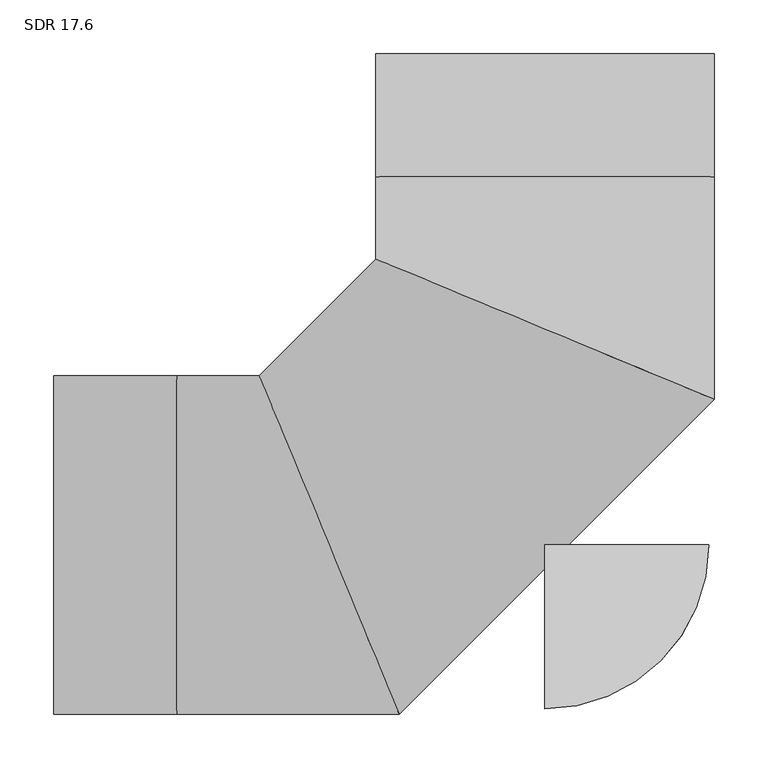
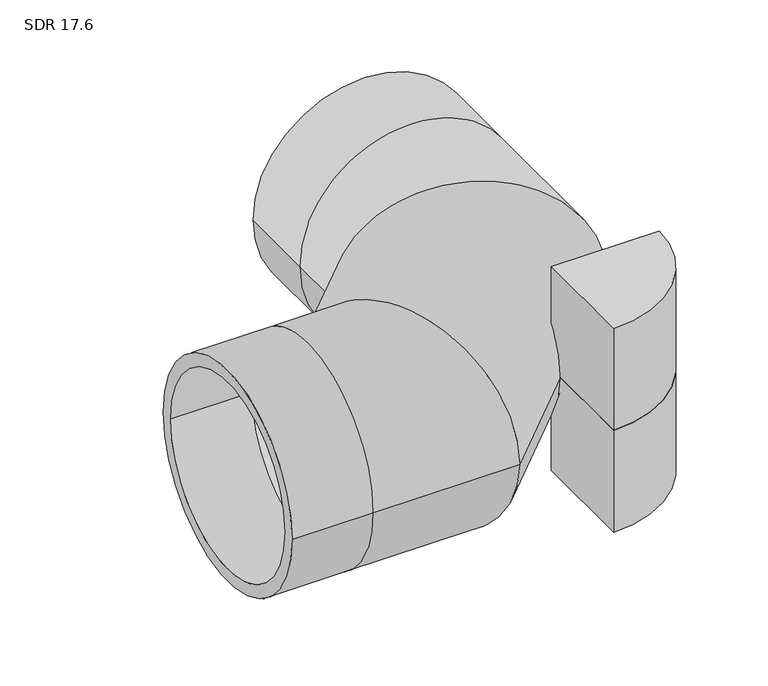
"""IFC4 building model written with IfcOpenShell, lengths in millimetres: pipe fitting geometry, Aquatherm - Elbow Blue BW Segmented : SDR 17.6."""

from ifc_helpers import new_model, si_unit, point, frame, origin, origin_with_axes, origin_2d, place, context, project, spatial, polyline, circle_curve, ellipse_curve, trimmed, segment, composite_curve, outline, extrude, source, transform, mapped, element, save
from ifc_brep_helpers import plane_surface, cylinder_surface, revolved_surface, advanced_brep


def sdr_17_6_15fbc498(model_context):
    return source(origin(), model_context, "Body", "SolidModel", [
        extrude(outline(composite_curve([segment(polyline([(0.0, -152.4), (0.0, 0.0), (152.4, 0.0)]), True, "CONTINUOUS"), segment(trimmed(circle_curve(origin_2d(), 152.4), [point((152.4, 0.0))], [point((0.0, -152.4))], False, "CARTESIAN"), True, "CONTINUOUS")], self_intersect=False)), frame((0.0, 0.0, -152.4), z_axis=(0.0, 0.0, 1.0), x_axis=(1.0, 0.0, 0.0)), (0.0, 0.0, 1.0), 152.4),
        extrude(outline(composite_curve([segment(trimmed(circle_curve(origin_2d(), 152.4), [point((152.4, 0.0))], [point((0.0, -152.4))], False, "CARTESIAN"), True, "CONTINUOUS"), segment(polyline([(0.0, -152.4), (0.0, 0.0), (152.4, 0.0)]), True, "CONTINUOUS")], self_intersect=False)), origin_with_axes(), (0.0, 0.0, 1.0), 152.4),
        advanced_brep(
        [(-457.2, -157.48, 0.0), (-457.2, 157.48, 0.0), (-457.2, -139.586134, 0.0), (-457.2, 139.586134, 0.0), (157.48, 457.2, 0.0), (-157.48, 457.2, 0.0), (139.586134, 457.2, 0.0), (-139.586134, 457.2, 0.0), (-342.9, -157.48, 0.0), (-342.9, 157.48, 0.0), (-342.9, -139.586134, 0.0), (-342.9, 139.586134, 0.0), (-135.6358177, -157.48, 0.0), (-266.0965213, 157.48, 0.0), (-143.0476996, -139.586134, 0.0), (-258.6846393, 139.586134, 0.0), (157.48, 135.6358177, 0.0), (-157.48, 266.0965213, 0.0), (139.586134, 143.0476996, 0.0), (-139.586134, 258.6846393, 0.0), (-157.48, 342.9, 0.0), (157.48, 342.9, 0.0), (-139.586134, 342.9, 0.0), (139.586134, 342.9, 0.0)],
        [
            (0, 1, circle_curve(frame((-457.2, 0.0, 0.0), z_axis=(-1.0, 0.0, 0.0), x_axis=(0.0, 1.0, 0.0)), 157.48)),
            (1, 0, circle_curve(frame((-457.2, 0.0, 0.0), z_axis=(-1.0, 0.0, 0.0), x_axis=(0.0, 1.0, 0.0)), 157.48)),
            (2, 3, circle_curve(frame((-457.2, 0.0, 0.0), z_axis=(1.0, 0.0, 0.0), x_axis=(0.0, 1.0, 0.0)), 139.586134)),
            (3, 2, circle_curve(frame((-457.2, 0.0, 0.0), z_axis=(1.0, 0.0, 0.0), x_axis=(0.0, 1.0, 0.0)), 139.586134)),
            (4, 5, circle_curve(frame((0.0, 457.2, 0.0), z_axis=(0.0, 1.0, 0.0), x_axis=(-1.0, 0.0, 0.0)), 157.48)),
            (5, 4, circle_curve(frame((0.0, 457.2, 0.0), z_axis=(0.0, 1.0, 0.0), x_axis=(-1.0, 0.0, 0.0)), 157.48)),
            (6, 7, circle_curve(frame((0.0, 457.2, 0.0), z_axis=(0.0, -1.0, 0.0), x_axis=(-1.0, 0.0, 0.0)), 139.586134)),
            (7, 6, circle_curve(frame((0.0, 457.2, 0.0), z_axis=(0.0, -1.0, 0.0), x_axis=(-1.0, 0.0, 0.0)), 139.586134)),
            (0, 8),
            (8, 9, circle_curve(frame((-342.9, 0.0, 0.0), z_axis=(-1.0, 0.0, 0.0), x_axis=(0.0, 1.0, 0.0)), 157.48)),
            (9, 1),
            (9, 8, circle_curve(frame((-342.9, 0.0, 0.0), z_axis=(-1.0, 0.0, 0.0), x_axis=(0.0, 1.0, 0.0)), 157.48)),
            (2, 10),
            (10, 11, circle_curve(frame((-342.9, 0.0, 0.0), z_axis=(1.0, 0.0, 0.0), x_axis=(0.0, 1.0, 0.0)), 139.586134)),
            (11, 3),
            (11, 10, circle_curve(frame((-342.9, 0.0, 0.0), z_axis=(1.0, 0.0, 0.0), x_axis=(0.0, 1.0, 0.0)), 139.586134)),
            (8, 12),
            (12, 13, ellipse_curve(frame((-200.8661695, 0.0, 0.0), z_axis=(-0.9238795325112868, -0.38268343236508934, 0.0), x_axis=(-0.3826834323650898, 0.9238795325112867, 0.0)), 170.4551237, 157.48)),
            (13, 9),
            (13, 12, ellipse_curve(frame((-200.8661695, 0.0, 0.0), z_axis=(-0.9238795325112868, -0.38268343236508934, 0.0), x_axis=(-0.3826834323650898, 0.9238795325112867, 0.0)), 170.4551237, 157.48)),
            (10, 14),
            (14, 15, ellipse_curve(frame((-200.8661695, 0.0, 0.0), z_axis=(0.9238795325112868, 0.38268343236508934, 0.0), x_axis=(0.3826834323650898, -0.9238795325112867, 0.0)), 151.0869428, 139.586134)),
            (15, 11),
            (15, 14, ellipse_curve(frame((-200.8661695, 0.0, 0.0), z_axis=(0.9238795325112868, 0.38268343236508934, 0.0), x_axis=(0.3826834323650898, -0.9238795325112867, 0.0)), 151.0869428, 139.586134)),
            (12, 16),
            (16, 17, ellipse_curve(frame((0.0, 200.8661695, 0.0), z_axis=(-0.3826834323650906, -0.9238795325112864, 0.0), x_axis=(-0.9238795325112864, 0.3826834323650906, 0.0)), 170.4551237, 157.48)),
            (17, 13),
            (17, 16, ellipse_curve(frame((0.0, 200.8661695, 0.0), z_axis=(-0.3826834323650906, -0.9238795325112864, 0.0), x_axis=(-0.9238795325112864, 0.3826834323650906, 0.0)), 170.4551237, 157.48)),
            (14, 18),
            (18, 19, ellipse_curve(frame((0.0, 200.8661695, 0.0), z_axis=(0.3826834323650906, 0.9238795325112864, 0.0), x_axis=(0.9238795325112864, -0.3826834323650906, 0.0)), 151.0869428, 139.586134)),
            (19, 15),
            (19, 18, ellipse_curve(frame((0.0, 200.8661695, 0.0), z_axis=(0.3826834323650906, 0.9238795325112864, 0.0), x_axis=(0.9238795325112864, -0.3826834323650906, 0.0)), 151.0869428, 139.586134)),
            (20, 21, circle_curve(frame((0.0, 342.9, 0.0), z_axis=(0.0, 1.0, 0.0), x_axis=(-1.0, 0.0, 0.0)), 157.48)),
            (21, 4),
            (5, 20),
            (21, 20, circle_curve(frame((0.0, 342.9, 0.0), z_axis=(0.0, 1.0, 0.0), x_axis=(-1.0, 0.0, 0.0)), 157.48)),
            (22, 23, circle_curve(frame((0.0, 342.9, 0.0), z_axis=(0.0, -1.0, 0.0), x_axis=(-1.0, 0.0, 0.0)), 139.586134)),
            (23, 6),
            (7, 22),
            (23, 22, circle_curve(frame((0.0, 342.9, 0.0), z_axis=(0.0, -1.0, 0.0), x_axis=(-1.0, 0.0, 0.0)), 139.586134)),
            (16, 21),
            (20, 17),
            (18, 23),
            (22, 19),
        ],
        [
            plane_surface(frame((-457.2, 0.0, 0.0), z_axis=(-1.0, 0.0, 0.0), x_axis=(0.0, 0.0, 1.0))),
            plane_surface(frame((0.0, 457.2, 0.0), z_axis=(0.0, 1.0, 0.0), x_axis=(0.0, 0.0, 1.0))),
            cylinder_surface(frame((-457.2, 0.0, 0.0), z_axis=(-1.0, 0.0, 0.0), x_axis=(0.0, 1.0, 0.0)), 157.48),
            revolved_surface(polyline([(-342.9, 139.586134, 0.0), (-457.2, 139.586134, 0.0)]), (-457.2, 0.0, 0.0), (1.0, 0.0, 0.0)),
            cylinder_surface(frame((-342.9, 0.0, 0.0), z_axis=(-1.0, 0.0, 0.0), x_axis=(0.0, 1.0, 0.0)), 157.48),
            revolved_surface(polyline([(-143.0476996, 139.586134, 0.0), (-342.9, 139.586134, 0.0)]), (-342.9, 0.0, 0.0), (1.0, 0.0, 0.0)),
            cylinder_surface(frame((-200.8661695, 0.0, 0.0), z_axis=(-0.7071067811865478, -0.7071067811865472, 0.0), x_axis=(-0.7071067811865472, 0.7071067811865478, 0.0)), 157.48),
            revolved_surface(polyline([(-57.81846979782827, 340.45230352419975, 0.0), (-340.4523035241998, 57.81846979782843, 0.0)]), (-200.8661695, 0.0, 0.0), (0.7071067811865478, 0.7071067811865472, 0.0)),
            cylinder_surface(frame((0.0, 342.9, 0.0), z_axis=(0.0, -1.0, 0.0), x_axis=(-1.0, 0.0, 0.0)), 157.48),
            revolved_surface(polyline([(-139.586134, 457.2, 0.0), (-139.586134, 342.9, 0.0)]), (0.0, 342.9, 0.0), (0.0, 1.0, 0.0)),
            cylinder_surface(frame((0.0, 200.8661695, 0.0), z_axis=(0.0, -1.0, 0.0), x_axis=(-1.0, 0.0, 0.0)), 157.48),
            revolved_surface(polyline([(-139.586134, 342.9, 0.0), (-139.586134, 143.0476996, 0.0)]), (0.0, 200.8661695, 0.0), (0.0, 1.0, 0.0)),
        ],
        [
            (0, [[1, 2], [3, 4]]),
            (1, [[5, 6], [7, 8]]),
            (2, [[-1, 9, 10, 11]]),
            (2, [[-2, -11, 12, -9]]),
            (3, [[-3, 13, 14, 15]]),
            (3, [[-4, -15, 16, -13]]),
            (4, [[-10, 17, 18, 19]]),
            (4, [[-12, -19, 20, -17]]),
            (5, [[-14, 21, 22, 23]]),
            (5, [[-16, -23, 24, -21]]),
            (6, [[-18, 25, 26, 27]]),
            (6, [[-20, -27, 28, -25]]),
            (7, [[-22, 29, 30, 31]]),
            (7, [[-24, -31, 32, -29]]),
            (8, [[33, 34, -6, 35]]),
            (8, [[36, -35, -5, -34]]),
            (9, [[37, 38, -8, 39]]),
            (9, [[40, -39, -7, -38]]),
            (10, [[-26, 41, -33, 42]]),
            (10, [[-28, -42, -36, -41]]),
            (11, [[-30, 43, -37, 44]]),
            (11, [[-32, -44, -40, -43]]),
        ],
    ),
    ])


if __name__ == "__main__":
    model = new_model("IFC4")
    model_context = context("Model", 3, world=origin())
    ifc_project = project(units=[si_unit("LENGTHUNIT", "METRE", prefix="MILLI")], contexts=[model_context])
    site = spatial("IfcSite", under=ifc_project)
    building = spatial("IfcBuilding", under=site)
    placement = place(None, origin())
    sdr_17_6_shape = sdr_17_6_15fbc498(model_context)
    element("IfcPipeFitting", 1, ObjectType="Aquatherm - Elbow Blue BW Segmented : SDR 17.6", at=placement, inside=building, context=model_context, shape_type="MappedRepresentation", body=[
        mapped(sdr_17_6_shape, transform((0.0, 0.0, 0.0), x_axis=(1.0, 0.0, 0.0), y_axis=(0.0, 1.0, 0.0), z_axis=(0.0, 0.0, 1.0))),
    ])
    save(model, "model.ifc")
